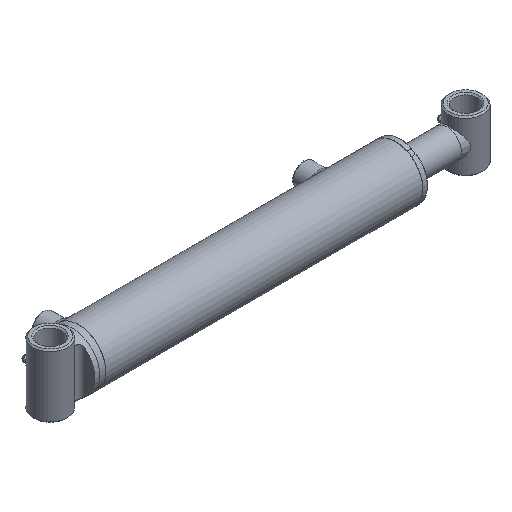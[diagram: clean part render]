
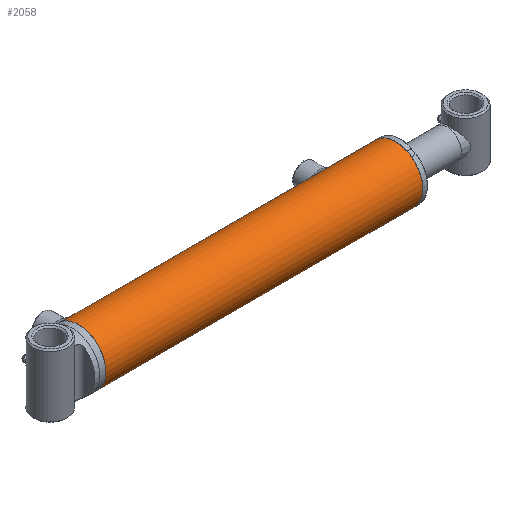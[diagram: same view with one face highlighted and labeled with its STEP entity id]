
A CAD part, isometric view. The second image highlights one B-rep face of the part: STEP entity #2058.
In plain terms, the highlighted cylindrical face has radius 30.163 mm (diameter 60.325 mm), a full revolution.
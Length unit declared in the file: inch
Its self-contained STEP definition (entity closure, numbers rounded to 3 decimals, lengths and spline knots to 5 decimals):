
#377=FACE_BOUND('',#700,.T.);
#378=FACE_BOUND('',#701,.T.);
#379=FACE_BOUND('',#702,.T.);
#500=FACE_OUTER_BOUND('',#699,.T.);
#699=EDGE_LOOP('',(#1636));
#700=EDGE_LOOP('',(#1637));
#701=EDGE_LOOP('',(#1638));
#702=EDGE_LOOP('',(#1639));
#908=CIRCLE('',#2250,1.1875);
#912=CIRCLE('',#2258,1.1875);
#1027=B_SPLINE_CURVE_WITH_KNOTS('',3,(#4705,#4706,#4707,#4708,#4709,#4710,
#4711,#4712,#4713,#4714,#4715,#4716,#4717,#4718,#4719,#4720,#4721,#4722,
#4723,#4724,#4725,#4726,#4727,#4728,#4729,#4730,#4731,#4732,#4733,#4734,
#4735,#4736,#4737,#4738),.UNSPECIFIED.,.T.,.F.,(4,2,2,2,2,2,2,2,2,2,2,2,
2,2,2,2,4),(0.,0.18872,0.37744,0.56616,0.75487,
0.94359,1.1323,1.32102,1.50975,1.69847,
1.88719,2.0759,2.26462,2.45333,2.64205,
2.83077,3.01949),.UNSPECIFIED.);
#1029=B_SPLINE_CURVE_WITH_KNOTS('',3,(#4898,#4899,#4900,#4901,#4902,#4903,
#4904,#4905,#4906,#4907,#4908,#4909,#4910,#4911,#4912,#4913,#4914,#4915,
#4916,#4917,#4918,#4919,#4920,#4921,#4922,#4923,#4924,#4925,#4926,#4927,
#4928,#4929,#4930,#4931),.UNSPECIFIED.,.T.,.F.,(4,2,2,2,2,2,2,2,2,2,2,2,
2,2,2,2,4),(0.,0.18872,0.37744,0.56616,0.75487,
0.94359,1.1323,1.32102,1.50975,1.69847,
1.88719,2.0759,2.26462,2.45333,2.64205,
2.83077,3.01949),.UNSPECIFIED.);
#1098=VERTEX_POINT('',#4704);
#1100=VERTEX_POINT('',#4897);
#1104=VERTEX_POINT('',#4941);
#1108=VERTEX_POINT('',#4953);
#1303=EDGE_CURVE('',#1098,#1098,#1027,.T.);
#1306=EDGE_CURVE('',#1100,#1100,#1029,.T.);
#1310=EDGE_CURVE('',#1104,#1104,#908,.T.);
#1314=EDGE_CURVE('',#1108,#1108,#912,.T.);
#1636=ORIENTED_EDGE('',*,*,#1314,.T.);
#1637=ORIENTED_EDGE('',*,*,#1303,.T.);
#1638=ORIENTED_EDGE('',*,*,#1306,.T.);
#1639=ORIENTED_EDGE('',*,*,#1310,.F.);
#1980=CYLINDRICAL_SURFACE('',#2260,1.1875);
#2058=ADVANCED_FACE('',(#500,#377,#378,#379),#1980,.T.);
#2250=AXIS2_PLACEMENT_3D('',#4942,#2627,#2628);
#2258=AXIS2_PLACEMENT_3D('',#4954,#2643,#2644);
#2260=AXIS2_PLACEMENT_3D('',#4956,#2647,#2648);
#2627=DIRECTION('center_axis',(1.,0.,0.));
#2628=DIRECTION('ref_axis',(0.,-1.,0.));
#2643=DIRECTION('center_axis',(1.,0.,0.));
#2644=DIRECTION('ref_axis',(0.,-1.,0.));
#2647=DIRECTION('center_axis',(1.,0.,0.));
#2648=DIRECTION('ref_axis',(0.,-1.,0.));
#4704=CARTESIAN_POINT('',(4.94094,1.17107,-0.19685));
#4705=CARTESIAN_POINT('Ctrl Pts',(4.94094,1.17107,-0.19685));
#4706=CARTESIAN_POINT('Ctrl Pts',(4.96571,1.17107,-0.19685));
#4707=CARTESIAN_POINT('Ctrl Pts',(4.9921,1.17194,-0.19189));
#4708=CARTESIAN_POINT('Ctrl Pts',(5.04058,1.17505,-0.17179));
#4709=CARTESIAN_POINT('Ctrl Pts',(5.06269,1.17725,-0.15665));
#4710=CARTESIAN_POINT('Ctrl Pts',(5.09759,1.18137,-0.12174));
#4711=CARTESIAN_POINT('Ctrl Pts',(5.11273,1.18356,-0.09964));
#4712=CARTESIAN_POINT('Ctrl Pts',(5.13284,1.18665,-0.05115));
#4713=CARTESIAN_POINT('Ctrl Pts',(5.1378,1.1875,-0.02477));
#4714=CARTESIAN_POINT('Ctrl Pts',(5.1378,1.1875,0.02477));
#4715=CARTESIAN_POINT('Ctrl Pts',(5.13284,1.18665,0.05115));
#4716=CARTESIAN_POINT('Ctrl Pts',(5.11273,1.18356,0.09964));
#4717=CARTESIAN_POINT('Ctrl Pts',(5.09759,1.18137,0.12174));
#4718=CARTESIAN_POINT('Ctrl Pts',(5.06269,1.17725,0.15665));
#4719=CARTESIAN_POINT('Ctrl Pts',(5.04058,1.17505,0.17179));
#4720=CARTESIAN_POINT('Ctrl Pts',(4.9921,1.17194,0.19189));
#4721=CARTESIAN_POINT('Ctrl Pts',(4.96571,1.17107,0.19685));
#4722=CARTESIAN_POINT('Ctrl Pts',(4.91618,1.17107,0.19685));
#4723=CARTESIAN_POINT('Ctrl Pts',(4.88979,1.17194,0.19189));
#4724=CARTESIAN_POINT('Ctrl Pts',(4.84131,1.17505,0.17179));
#4725=CARTESIAN_POINT('Ctrl Pts',(4.8192,1.17725,0.15665));
#4726=CARTESIAN_POINT('Ctrl Pts',(4.7843,1.18137,0.12174));
#4727=CARTESIAN_POINT('Ctrl Pts',(4.76916,1.18356,0.09964));
#4728=CARTESIAN_POINT('Ctrl Pts',(4.74905,1.18665,0.05115));
#4729=CARTESIAN_POINT('Ctrl Pts',(4.74409,1.1875,0.02477));
#4730=CARTESIAN_POINT('Ctrl Pts',(4.74409,1.1875,-0.02477));
#4731=CARTESIAN_POINT('Ctrl Pts',(4.74905,1.18665,-0.05115));
#4732=CARTESIAN_POINT('Ctrl Pts',(4.76916,1.18356,-0.09964));
#4733=CARTESIAN_POINT('Ctrl Pts',(4.7843,1.18137,-0.12174));
#4734=CARTESIAN_POINT('Ctrl Pts',(4.8192,1.17725,-0.15665));
#4735=CARTESIAN_POINT('Ctrl Pts',(4.84131,1.17505,-0.17179));
#4736=CARTESIAN_POINT('Ctrl Pts',(4.88979,1.17194,-0.19189));
#4737=CARTESIAN_POINT('Ctrl Pts',(4.91618,1.17107,-0.19685));
#4738=CARTESIAN_POINT('Ctrl Pts',(4.94094,1.17107,-0.19685));
#4897=CARTESIAN_POINT('',(-6.35827,1.17107,-0.19685));
#4898=CARTESIAN_POINT('Ctrl Pts',(-6.35827,1.17107,-0.19685));
#4899=CARTESIAN_POINT('Ctrl Pts',(-6.3335,1.17107,-0.19685));
#4900=CARTESIAN_POINT('Ctrl Pts',(-6.30712,1.17194,-0.19189));
#4901=CARTESIAN_POINT('Ctrl Pts',(-6.25863,1.17505,-0.17179));
#4902=CARTESIAN_POINT('Ctrl Pts',(-6.23653,1.17725,-0.15665));
#4903=CARTESIAN_POINT('Ctrl Pts',(-6.20162,1.18137,-0.12174));
#4904=CARTESIAN_POINT('Ctrl Pts',(-6.18648,1.18356,-0.09964));
#4905=CARTESIAN_POINT('Ctrl Pts',(-6.16638,1.18665,-0.05115));
#4906=CARTESIAN_POINT('Ctrl Pts',(-6.16142,1.1875,-0.02477));
#4907=CARTESIAN_POINT('Ctrl Pts',(-6.16142,1.1875,0.02477));
#4908=CARTESIAN_POINT('Ctrl Pts',(-6.16638,1.18665,0.05115));
#4909=CARTESIAN_POINT('Ctrl Pts',(-6.18648,1.18356,0.09964));
#4910=CARTESIAN_POINT('Ctrl Pts',(-6.20162,1.18137,0.12174));
#4911=CARTESIAN_POINT('Ctrl Pts',(-6.23653,1.17725,0.15665));
#4912=CARTESIAN_POINT('Ctrl Pts',(-6.25863,1.17505,0.17179));
#4913=CARTESIAN_POINT('Ctrl Pts',(-6.30712,1.17194,0.19189));
#4914=CARTESIAN_POINT('Ctrl Pts',(-6.3335,1.17107,0.19685));
#4915=CARTESIAN_POINT('Ctrl Pts',(-6.38303,1.17107,0.19685));
#4916=CARTESIAN_POINT('Ctrl Pts',(-6.40942,1.17194,0.19189));
#4917=CARTESIAN_POINT('Ctrl Pts',(-6.45791,1.17505,0.17179));
#4918=CARTESIAN_POINT('Ctrl Pts',(-6.48001,1.17725,0.15665));
#4919=CARTESIAN_POINT('Ctrl Pts',(-6.51491,1.18137,0.12174));
#4920=CARTESIAN_POINT('Ctrl Pts',(-6.53006,1.18356,0.09964));
#4921=CARTESIAN_POINT('Ctrl Pts',(-6.55016,1.18665,0.05115));
#4922=CARTESIAN_POINT('Ctrl Pts',(-6.55512,1.1875,0.02477));
#4923=CARTESIAN_POINT('Ctrl Pts',(-6.55512,1.1875,-0.02477));
#4924=CARTESIAN_POINT('Ctrl Pts',(-6.55016,1.18665,-0.05115));
#4925=CARTESIAN_POINT('Ctrl Pts',(-6.53006,1.18356,-0.09964));
#4926=CARTESIAN_POINT('Ctrl Pts',(-6.51491,1.18137,-0.12174));
#4927=CARTESIAN_POINT('Ctrl Pts',(-6.48001,1.17725,-0.15665));
#4928=CARTESIAN_POINT('Ctrl Pts',(-6.45791,1.17505,-0.17179));
#4929=CARTESIAN_POINT('Ctrl Pts',(-6.40942,1.17194,-0.19189));
#4930=CARTESIAN_POINT('Ctrl Pts',(-6.38303,1.17107,-0.19685));
#4931=CARTESIAN_POINT('Ctrl Pts',(-6.35827,1.17107,-0.19685));
#4941=CARTESIAN_POINT('',(6.94882,1.1875,0.));
#4942=CARTESIAN_POINT('Origin',(6.94882,0.,0.));
#4953=CARTESIAN_POINT('',(-6.78494,1.1875,0.));
#4954=CARTESIAN_POINT('Origin',(-6.78494,0.,0.));
#4956=CARTESIAN_POINT('Origin',(0.,0.,0.));
